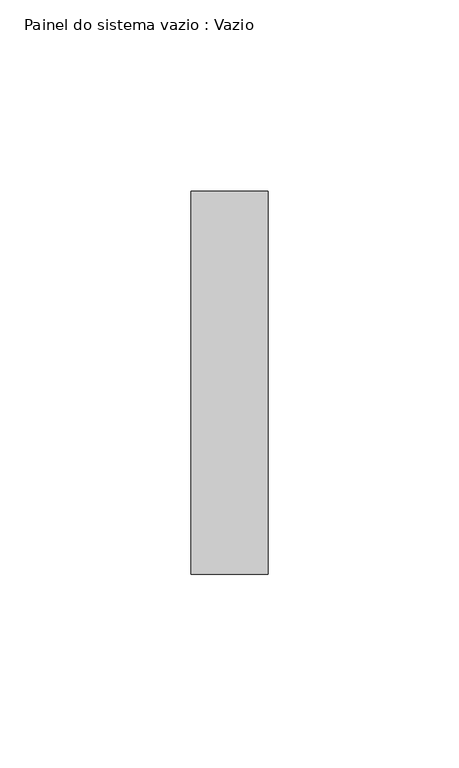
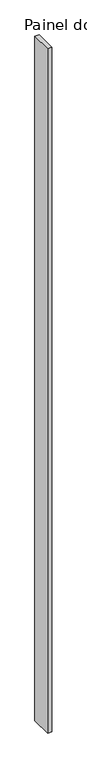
"""IFC4 building model written with IfcOpenShell, lengths in millimetres: plate geometry, Painel do sistema vazio : Vazio."""

from ifc_helpers import new_model, si_unit, origin, origin_with_axes, place, context, project, spatial, polyline, outline, extrude, source, transform, mapped, element, save


def painel_do_sistema_vazio_vazio_6774419f(model_context):
    return source(origin(), model_context, "Body", "SweptSolid", [
        extrude(outline(polyline([(10.0000002, -50.0), (-10.0000002, -50.0), (-10.0000002, 50.0), (10.0000002, 50.0), (10.0000002, -50.0)])), origin_with_axes(), (0.0, 0.0, 1.0), 3310.0),
    ])


if __name__ == "__main__":
    model = new_model("IFC4")
    model_context = context("Model", 3, world=origin())
    ifc_project = project(units=[si_unit("LENGTHUNIT", "METRE", prefix="MILLI")], contexts=[model_context])
    site = spatial("IfcSite", under=ifc_project)
    building = spatial("IfcBuilding", under=site)
    placement = place(None, origin())
    painel_do_sistema_vazio_vazio_shape = painel_do_sistema_vazio_vazio_6774419f(model_context)
    element("IfcPlate", 1, ObjectType="Painel do sistema vazio : Vazio", at=placement, inside=building, context=model_context, shape_type="MappedRepresentation", body=[
        mapped(painel_do_sistema_vazio_vazio_shape, transform((0.0, 0.0, 0.0), x_axis=(1.0, 0.0, 0.0), y_axis=(0.0, 1.0, 0.0), z_axis=(0.0, 0.0, 1.0))),
    ])
    save(model, "model.ifc")
